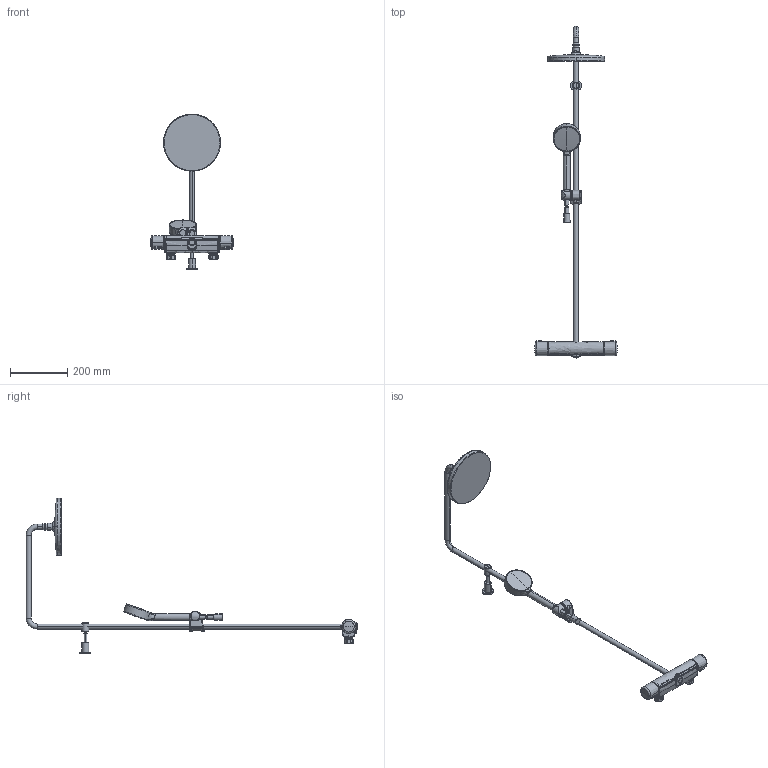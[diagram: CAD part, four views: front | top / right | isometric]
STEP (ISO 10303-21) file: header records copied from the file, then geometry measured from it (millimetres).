
FILE_DESCRIPTION (( 'STEP AP203' ), '1' );
FILE_NAME ('7402(2020).STEP', '2019-09-11T08:02:02', ( '' ), ( '' ), 'SwSTEP 2.0', 'SolidWorks 2016', '' );
FILE_SCHEMA (( 'CONFIG_CONTROL_DESIGN' ));
Products named in the file (1): 7402(2020)
Bounding box: 289.92 x 1162.4 x 545.7 mm (x, y, z)
Volume: 1817850.2 mm3; surface area: 366857.4 mm2
Topology: 22 solids, 28 shells, 852 faces, 1980 edges, 1187 vertices
Faces by surface type: bspline 320, cylinder 207, plane 124, torus 88, cone 73, sphere 40
Entity records: 60893 total; most frequent: CARTESIAN_POINT 44328, ORIENTED_EDGE 3924, DIRECTION 2764, EDGE_CURVE 1962, AXIS2_PLACEMENT_3D 1222, VERTEX_POINT 1185, EDGE_LOOP 873, FACE_OUTER_BOUND 852
